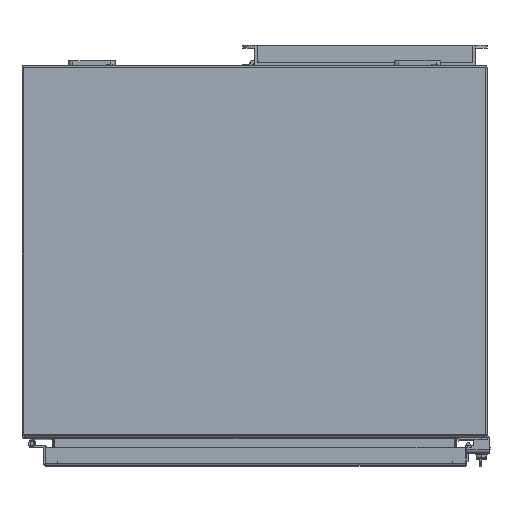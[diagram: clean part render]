
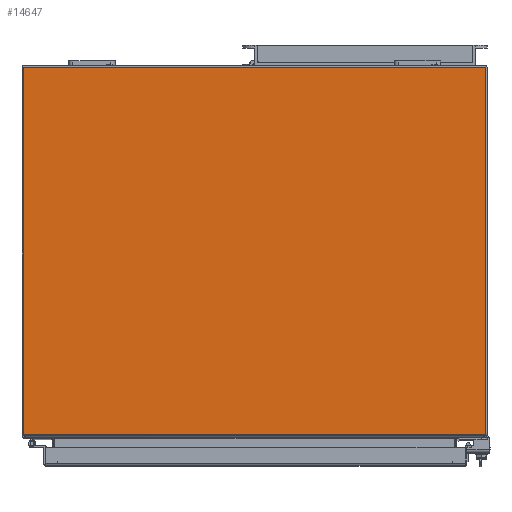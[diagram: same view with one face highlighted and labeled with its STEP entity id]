
A CAD part, top view. The second image highlights one B-rep face of the part: STEP entity #14647.
In plain terms, the highlighted planar face has unit normal (0, 0, 1).
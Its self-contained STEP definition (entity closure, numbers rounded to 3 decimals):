
#870=CIRCLE('',#16560,6.35);
#873=CIRCLE('',#16565,6.35);
#2264=LINE('',#28199,#3643);
#2268=LINE('',#28208,#3647);
#2271=LINE('',#28215,#3650);
#2275=LINE('',#28222,#3654);
#3643=VECTOR('',#20434,1000.);
#3647=VECTOR('',#20442,1000.);
#3650=VECTOR('',#20447,1000.);
#3654=VECTOR('',#20453,1000.);
#7797=ORIENTED_EDGE('',*,*,#9873,.F.);
#7798=ORIENTED_EDGE('',*,*,#9872,.F.);
#7799=ORIENTED_EDGE('',*,*,#9865,.F.);
#7800=ORIENTED_EDGE('',*,*,#9868,.T.);
#7801=ORIENTED_EDGE('',*,*,#9876,.F.);
#7802=ORIENTED_EDGE('',*,*,#9861,.T.);
#9861=EDGE_CURVE('',#11219,#11225,#2264,.T.);
#9865=EDGE_CURVE('',#11228,#11229,#2268,.T.);
#9868=EDGE_CURVE('',#11228,#11231,#2271,.T.);
#9872=EDGE_CURVE('',#11229,#11233,#2275,.T.);
#9873=EDGE_CURVE('',#11233,#11225,#870,.T.);
#9876=EDGE_CURVE('',#11219,#11231,#873,.T.);
#11219=VERTEX_POINT('',#28110);
#11225=VERTEX_POINT('',#28192);
#11228=VERTEX_POINT('',#28207);
#11229=VERTEX_POINT('',#28209);
#11231=VERTEX_POINT('',#28214);
#11233=VERTEX_POINT('',#28220);
#12392=EDGE_LOOP('',(#7797,#7798,#7799,#7800,#7801,#7802));
#13309=FACE_BOUND('',#12392,.T.);
#13830=PLANE('',#16566);
#14647=ADVANCED_FACE('',(#13309),#13830,.T.);
#16560=AXIS2_PLACEMENT_3D('',#28224,#20456,#20457);
#16565=AXIS2_PLACEMENT_3D('',#28229,#20466,#20467);
#16566=AXIS2_PLACEMENT_3D('',#28230,#20468,#20469);
#20434=DIRECTION('',(1.,0.,0.));
#20442=DIRECTION('',(1.,0.,0.));
#20447=DIRECTION('',(0.,-1.,0.));
#20453=DIRECTION('',(0.,-1.,0.));
#20456=DIRECTION('',(0.,0.,-1.));
#20457=DIRECTION('',(-1.,0.,0.));
#20466=DIRECTION('',(0.,0.,-1.));
#20467=DIRECTION('',(1.,0.,0.));
#20468=DIRECTION('',(0.,0.,1.));
#20469=DIRECTION('',(0.,-1.,0.));
#28110=CARTESIAN_POINT('',(-251.42,-199.542,0.));
#28192=CARTESIAN_POINT('',(251.42,-199.542,0.));
#28199=CARTESIAN_POINT('',(-252.171,-199.542,0.));
#28207=CARTESIAN_POINT('',(-252.171,202.286,0.));
#28208=CARTESIAN_POINT('',(-252.171,202.286,0.));
#28209=CARTESIAN_POINT('',(252.171,202.286,0.));
#28214=CARTESIAN_POINT('',(-252.171,-196.546,0.));
#28215=CARTESIAN_POINT('',(-252.171,202.286,0.));
#28220=CARTESIAN_POINT('',(252.171,-196.546,0.));
#28222=CARTESIAN_POINT('',(252.171,202.286,0.));
#28224=CARTESIAN_POINT('',(245.821,-196.546,0.));
#28229=CARTESIAN_POINT('',(-245.821,-196.546,0.));
#28230=CARTESIAN_POINT('',(-252.171,202.286,0.));
